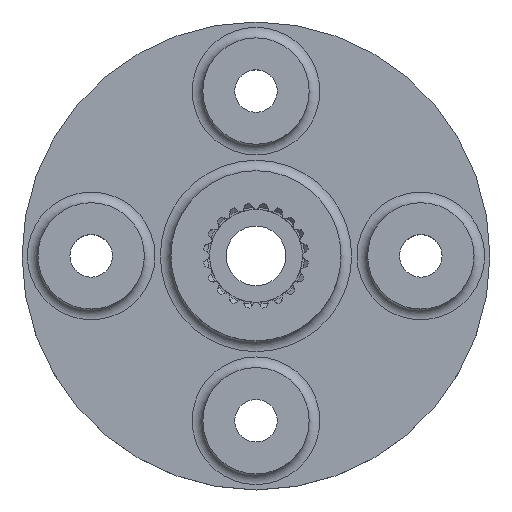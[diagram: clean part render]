
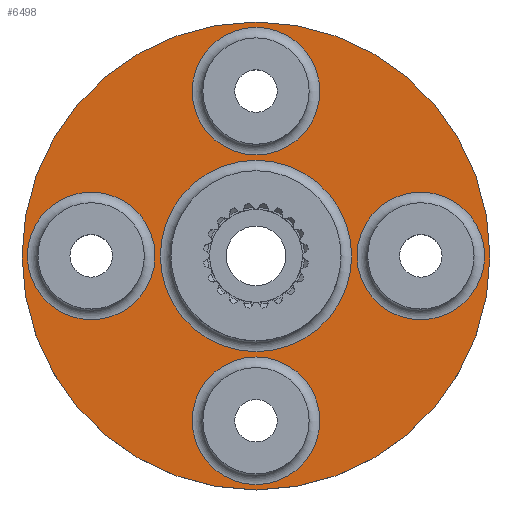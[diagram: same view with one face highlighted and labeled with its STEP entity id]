
A CAD part, top view. The second image highlights one B-rep face of the part: STEP entity #6498.
In plain terms, the highlighted planar face has unit normal (0, 0, 1).
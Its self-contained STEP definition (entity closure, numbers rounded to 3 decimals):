
#6423=CARTESIAN_POINT('',(-10.75,0.,-5.0));
#6424=VERTEX_POINT('',#6423);
#6425=CARTESIAN_POINT('',(-7.75,0.,-5.0));
#6426=DIRECTION('',(0.0,0.0,1.0));
#6427=DIRECTION('',(1.0,0.0,0.0));
#6428=AXIS2_PLACEMENT_3D('',#6425,#6426,#6427);
#6429=CIRCLE('',#6428,3.0);
#6430=EDGE_CURVE('',#6424,#6424,#6429,.T.);
#6435=CARTESIAN_POINT('',(0.,0.,-5.0));
#6436=DIRECTION('',(0.0,0.0,1.0));
#6437=DIRECTION('',(1.0,0.0,0.0));
#6438=AXIS2_PLACEMENT_3D('',#6435,#6436,#6437);
#6439=PLANE('',#6438);
#6440=CARTESIAN_POINT('',(-11.0,0.,-5.0));
#6441=VERTEX_POINT('',#6440);
#6442=CARTESIAN_POINT('',(0.0,0.0,-5.0));
#6443=DIRECTION('',(0.0,0.0,1.0));
#6444=DIRECTION('',(1.0,0.0,0.0));
#6445=AXIS2_PLACEMENT_3D('',#6442,#6443,#6444);
#6446=CIRCLE('',#6445,11.0);
#6447=EDGE_CURVE('',#6441,#6441,#6446,.T.);
#6448=ORIENTED_EDGE('',*,*,#6447,.T.);
#6449=EDGE_LOOP('',(#6448));
#6450=FACE_OUTER_BOUND('',#6449,.T.);
#6451=CARTESIAN_POINT('',(0.,10.75,-5.0));
#6452=VERTEX_POINT('',#6451);
#6453=CARTESIAN_POINT('',(0.,7.75,-5.0));
#6454=DIRECTION('',(0.0,0.0,1.0));
#6455=DIRECTION('',(0.0,-1.0,0.0));
#6456=AXIS2_PLACEMENT_3D('',#6453,#6454,#6455);
#6457=CIRCLE('',#6456,3.0);
#6458=EDGE_CURVE('',#6452,#6452,#6457,.T.);
#6459=ORIENTED_EDGE('',*,*,#6458,.F.);
#6460=EDGE_LOOP('',(#6459));
#6461=FACE_BOUND('',#6460,.T.);
#6462=CARTESIAN_POINT('',(0.,-10.75,-5.0));
#6463=VERTEX_POINT('',#6462);
#6464=CARTESIAN_POINT('',(0.,-7.75,-5.0));
#6465=DIRECTION('',(0.0,0.0,1.0));
#6466=DIRECTION('',(0.0,1.0,0.0));
#6467=AXIS2_PLACEMENT_3D('',#6464,#6465,#6466);
#6468=CIRCLE('',#6467,3.0);
#6469=EDGE_CURVE('',#6463,#6463,#6468,.T.);
#6470=ORIENTED_EDGE('',*,*,#6469,.F.);
#6471=EDGE_LOOP('',(#6470));
#6472=FACE_BOUND('',#6471,.T.);
#6473=CARTESIAN_POINT('',(10.75,0.,-5.0));
#6474=VERTEX_POINT('',#6473);
#6475=CARTESIAN_POINT('',(7.75,0.0,-5.0));
#6476=DIRECTION('',(0.0,0.0,1.0));
#6477=DIRECTION('',(-1.0,0.0,0.0));
#6478=AXIS2_PLACEMENT_3D('',#6475,#6476,#6477);
#6479=CIRCLE('',#6478,3.0);
#6480=EDGE_CURVE('',#6474,#6474,#6479,.T.);
#6481=ORIENTED_EDGE('',*,*,#6480,.F.);
#6482=EDGE_LOOP('',(#6481));
#6483=FACE_BOUND('',#6482,.T.);
#6484=CARTESIAN_POINT('',(4.5,0.,-5.0));
#6485=VERTEX_POINT('',#6484);
#6486=CARTESIAN_POINT('',(0.,0.,-5.0));
#6487=DIRECTION('',(0.0,0.0,1.0));
#6488=DIRECTION('',(-1.0,0.0,0.0));
#6489=AXIS2_PLACEMENT_3D('',#6486,#6487,#6488);
#6490=CIRCLE('',#6489,4.5);
#6491=EDGE_CURVE('',#6485,#6485,#6490,.T.);
#6492=ORIENTED_EDGE('',*,*,#6491,.F.);
#6493=EDGE_LOOP('',(#6492));
#6494=FACE_BOUND('',#6493,.T.);
#6495=ORIENTED_EDGE('',*,*,#6430,.F.);
#6496=EDGE_LOOP('',(#6495));
#6497=FACE_BOUND('',#6496,.T.);
#6498=ADVANCED_FACE('',(#6450,#6461,#6472,#6483,#6494,#6497),#6439,.T.);
